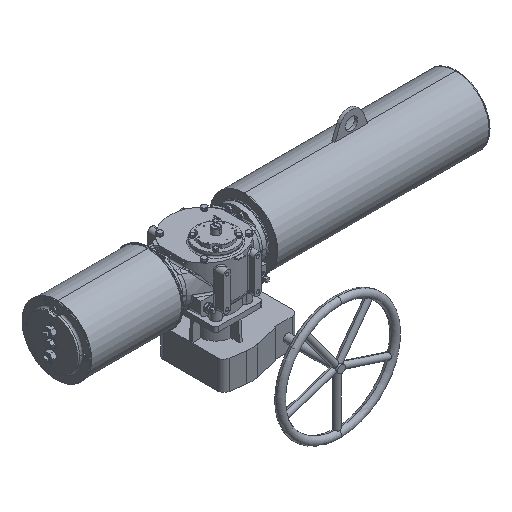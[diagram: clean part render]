
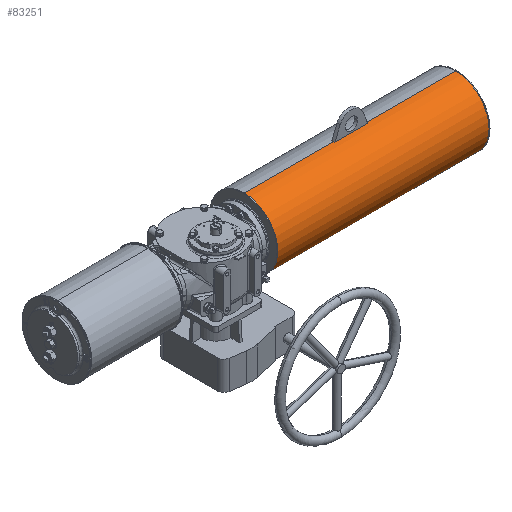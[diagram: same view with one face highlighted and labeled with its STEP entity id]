
A CAD part, isometric view. The second image highlights one B-rep face of the part: STEP entity #83251.
In plain terms, the highlighted cylindrical face has radius 109.5 mm (diameter 219 mm), a partial arc.
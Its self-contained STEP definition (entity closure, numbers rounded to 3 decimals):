
#44 = EDGE_CURVE ( 'NONE', #77377, #72159, #52022, .T. ) ;
#648 = DIRECTION ( 'NONE',  ( -1., 0., 0. ) ) ;
#2033 = DIRECTION ( 'NONE',  ( 0., 0., -1. ) ) ;
#2085 = CARTESIAN_POINT ( 'NONE',  ( 839.5, 22.5, 167. ) ) ;
#7149 = ORIENTED_EDGE ( 'NONE', *, *, #51953, .T. ) ;
#7509 = DIRECTION ( 'NONE',  ( 1., 0., 0. ) ) ;
#8640 = LINE ( 'NONE', #37839, #41907 ) ;
#8833 = DIRECTION ( 'NONE',  ( 0., -1., 0. ) ) ;
#9776 = AXIS2_PLACEMENT_3D ( 'NONE', #76525, #49006, #14821 ) ;
#11108 = CARTESIAN_POINT ( 'NONE',  ( 843., 22.5, -52. ) ) ;
#13090 = CARTESIAN_POINT ( 'NONE',  ( 843., 22.5, 57.5 ) ) ;
#13196 = VERTEX_POINT ( 'NONE', #88681 ) ;
#13210 = AXIS2_PLACEMENT_3D ( 'NONE', #13090, #20261, #75232 ) ;
#13728 = EDGE_CURVE ( 'NONE', #74385, #13196, #64379, .T. ) ;
#14821 = DIRECTION ( 'NONE',  ( 0., 0., -1. ) ) ;
#16267 = AXIS2_PLACEMENT_3D ( 'NONE', #43462, #7509, #8833 ) ;
#16960 = LINE ( 'NONE', #79554, #47579 ) ;
#17902 = VERTEX_POINT ( 'NONE', #43232 ) ;
#19428 = ORIENTED_EDGE ( 'NONE', *, *, #13728, .T. ) ;
#20261 = DIRECTION ( 'NONE',  ( -1., 0., 0. ) ) ;
#21162 = CARTESIAN_POINT ( 'NONE',  ( 839.5, 22.5, -52. ) ) ;
#21546 = CYLINDRICAL_SURFACE ( 'NONE', #9776, 109.5 ) ;
#21966 = CIRCLE ( 'NONE', #16267, 109.5 ) ;
#22031 = CARTESIAN_POINT ( 'NONE',  ( 843., 22.5, 167. ) ) ;
#23700 = DIRECTION ( 'NONE',  ( -1., 0., 0. ) ) ;
#23955 = ORIENTED_EDGE ( 'NONE', *, *, #44, .T. ) ;
#24887 = DIRECTION ( 'NONE',  ( 1., 0., 0. ) ) ;
#24894 = CARTESIAN_POINT ( 'NONE',  ( 444., 17.5, 166.886 ) ) ;
#25972 = EDGE_CURVE ( 'NONE', #17902, #70265, #21966, .T. ) ;
#29074 = DIRECTION ( 'NONE',  ( -1., 0., 0. ) ) ;
#31624 = CARTESIAN_POINT ( 'NONE',  ( 153., 22.5, 57.5 ) ) ;
#31678 = CARTESIAN_POINT ( 'NONE',  ( 843., -87., 57.5 ) ) ;
#32875 = VERTEX_POINT ( 'NONE', #47466 ) ;
#33846 = AXIS2_PLACEMENT_3D ( 'NONE', #31624, #24887, #73961 ) ;
#34633 = EDGE_CURVE ( 'NONE', #70265, #74385, #16960, .T. ) ;
#35257 = EDGE_CURVE ( 'NONE', #13196, #77021, #72300, .T. ) ;
#37641 = EDGE_CURVE ( 'NONE', #59861, #17902, #8640, .T. ) ;
#37839 = CARTESIAN_POINT ( 'NONE',  ( 839.5, 22.5, 167. ) ) ;
#41590 = CARTESIAN_POINT ( 'NONE',  ( 444., 22.5, 57.5 ) ) ;
#41907 = VECTOR ( 'NONE', #57695, 1000. ) ;
#42482 = AXIS2_PLACEMENT_3D ( 'NONE', #64170, #78581, #2033 ) ;
#42818 = ORIENTED_EDGE ( 'NONE', *, *, #34633, .T. ) ;
#43062 = DIRECTION ( 'NONE',  ( 1., 0., 0. ) ) ;
#43232 = CARTESIAN_POINT ( 'NONE',  ( 552., 22.5, 167. ) ) ;
#43462 = CARTESIAN_POINT ( 'NONE',  ( 552., 22.5, 57.5 ) ) ;
#45289 = AXIS2_PLACEMENT_3D ( 'NONE', #84093, #43062, #49376 ) ;
#45792 = VECTOR ( 'NONE', #29074, 1000. ) ;
#46694 = DIRECTION ( 'NONE',  ( 0., 1., 0. ) ) ;
#46854 = EDGE_CURVE ( 'NONE', #32875, #77013, #66933, .T. ) ;
#47087 = ORIENTED_EDGE ( 'NONE', *, *, #77239, .T. ) ;
#47466 = CARTESIAN_POINT ( 'NONE',  ( 153., -87., 57.5 ) ) ;
#47579 = VECTOR ( 'NONE', #23700, 1000. ) ;
#47725 = ORIENTED_EDGE ( 'NONE', *, *, #25972, .T. ) ;
#49006 = DIRECTION ( 'NONE',  ( -1., 0., 0. ) ) ;
#49376 = DIRECTION ( 'NONE',  ( 0., 0., -1. ) ) ;
#51953 = EDGE_CURVE ( 'NONE', #72159, #59861, #64034, .T. ) ;
#52022 = CIRCLE ( 'NONE', #13210, 109.5 ) ;
#57695 = DIRECTION ( 'NONE',  ( -1., 0., 0. ) ) ;
#59861 = VERTEX_POINT ( 'NONE', #22031 ) ;
#62598 = LINE ( 'NONE', #21162, #74662 ) ;
#64034 = CIRCLE ( 'NONE', #42482, 109.5 ) ;
#64170 = CARTESIAN_POINT ( 'NONE',  ( 843., 22.5, 57.5 ) ) ;
#64379 = CIRCLE ( 'NONE', #75892, 109.5 ) ;
#65160 = CARTESIAN_POINT ( 'NONE',  ( 552., 17.5, 166.886 ) ) ;
#66933 = CIRCLE ( 'NONE', #33846, 109.5 ) ;
#70265 = VERTEX_POINT ( 'NONE', #65160 ) ;
#72159 = VERTEX_POINT ( 'NONE', #31678 ) ;
#72300 = LINE ( 'NONE', #2085, #45792 ) ;
#72646 = CIRCLE ( 'NONE', #45289, 109.5 ) ;
#73267 = ORIENTED_EDGE ( 'NONE', *, *, #37641, .T. ) ;
#73961 = DIRECTION ( 'NONE',  ( 0., 0., -1. ) ) ;
#74385 = VERTEX_POINT ( 'NONE', #24894 ) ;
#74662 = VECTOR ( 'NONE', #88300, 1000. ) ;
#75232 = DIRECTION ( 'NONE',  ( 0., 0., -1. ) ) ;
#75562 = CARTESIAN_POINT ( 'NONE',  ( 153., 22.5, 167. ) ) ;
#75892 = AXIS2_PLACEMENT_3D ( 'NONE', #41590, #648, #46694 ) ;
#76525 = CARTESIAN_POINT ( 'NONE',  ( 839.5, 22.5, 57.5 ) ) ;
#77013 = VERTEX_POINT ( 'NONE', #87734 ) ;
#77021 = VERTEX_POINT ( 'NONE', #75562 ) ;
#77239 = EDGE_CURVE ( 'NONE', #77021, #32875, #72646, .T. ) ;
#77299 = ORIENTED_EDGE ( 'NONE', *, *, #87957, .F. ) ;
#77377 = VERTEX_POINT ( 'NONE', #11108 ) ;
#78581 = DIRECTION ( 'NONE',  ( -1., 0., 0. ) ) ;
#79554 = CARTESIAN_POINT ( 'NONE',  ( 839.5, 17.5, 166.886 ) ) ;
#80441 = EDGE_LOOP ( 'NONE', ( #23955, #7149, #73267, #47725, #42818, #19428, #84981, #47087, #88977, #77299 ) ) ;
#81957 = FACE_OUTER_BOUND ( 'NONE', #80441, .T. ) ;
#83251 = ADVANCED_FACE ( 'NONE', ( #81957 ), #21546, .T. ) ;
#84093 = CARTESIAN_POINT ( 'NONE',  ( 153., 22.5, 57.5 ) ) ;
#84981 = ORIENTED_EDGE ( 'NONE', *, *, #35257, .T. ) ;
#87734 = CARTESIAN_POINT ( 'NONE',  ( 153., 22.5, -52. ) ) ;
#87957 = EDGE_CURVE ( 'NONE', #77377, #77013, #62598, .T. ) ;
#88300 = DIRECTION ( 'NONE',  ( -1., 0., 0. ) ) ;
#88681 = CARTESIAN_POINT ( 'NONE',  ( 444., 22.5, 167. ) ) ;
#88977 = ORIENTED_EDGE ( 'NONE', *, *, #46854, .T. ) ;
